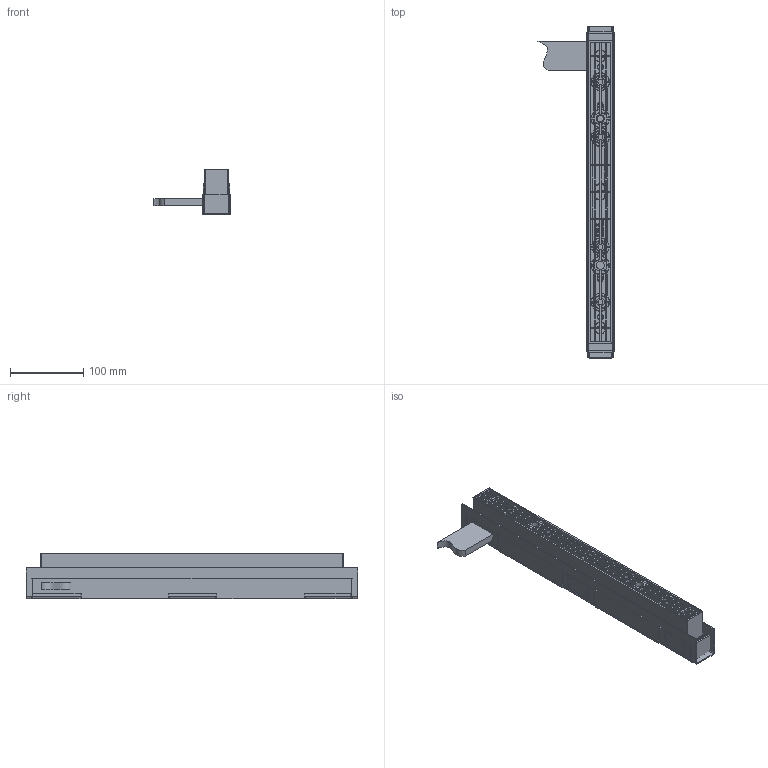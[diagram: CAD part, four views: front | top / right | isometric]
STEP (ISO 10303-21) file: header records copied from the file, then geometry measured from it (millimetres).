
FILE_DESCRIPTION (( 'STEP AP214' ), '1' );
FILE_NAME ('52742.STEP', '2021-08-11T05:44:20', ( '' ), ( '' ), 'SwSTEP 2.0', 'SolidWorks 2017', '' );
FILE_SCHEMA (( 'AUTOMOTIVE_DESIGN' ));
Length unit declared in the file: millimetre
Products named in the file (2): 52742
Bounding box: 103.5 x 452 x 62 mm (x, y, z)
Volume: 426901.9 mm3; surface area: 407289.1 mm2
Topology: 12 solids, 12 shells, 2717 faces, 7135 edges, 4502 vertices
Faces by surface type: plane 1334, cylinder 863, bspline 218, torus 193, cone 62, sphere 47
Full cylindrical faces by diameter (mm): 4 x2, 4.5 x2, 4.8 x1, 5.5 x1, 7 x4, 8.376 x3, 8.5 x5, 9 x2, 11 x3, 12 x6, 13 x9, 14 x7, 16 x2, 20 x2, 21 x4
Entity records: 94592 total; most frequent: CARTESIAN_POINT 28890, ORIENTED_EDGE 13930, DIRECTION 13245, EDGE_CURVE 6965, VECTOR 4469, LINE 4469, VERTEX_POINT 4460, AXIS2_PLACEMENT_3D 4388
